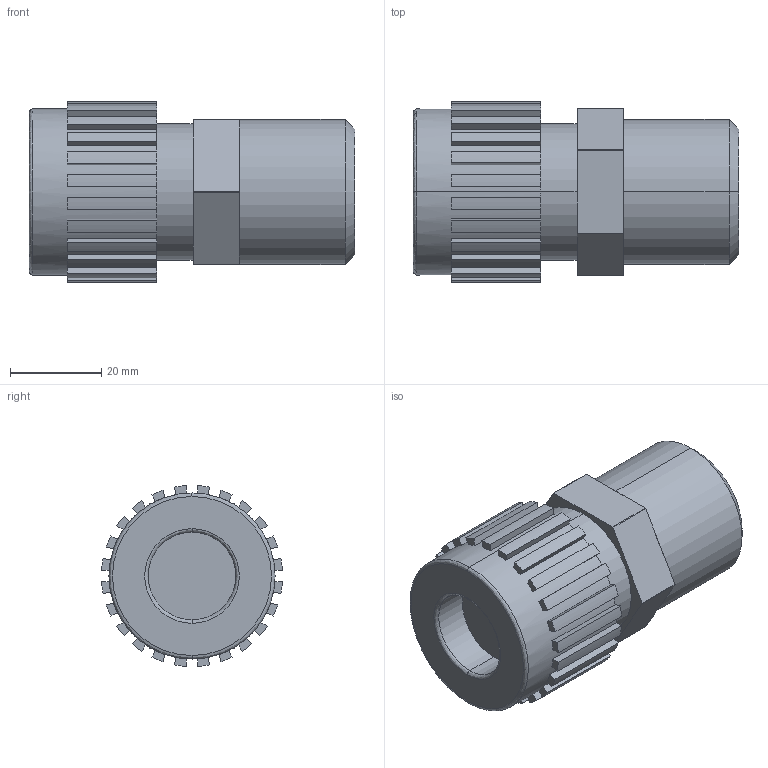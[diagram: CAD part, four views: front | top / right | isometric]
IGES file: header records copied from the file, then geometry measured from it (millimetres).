
Start section: SolidWorks IGES file using analytic representation for surfaces
Global section: file name: S:\Product Visuals\Defeatured Models and Parts Library\Parts Library IGES & STEP\Liquid Fittings\Front Mount liquid Fittings\Pillar S-300\60LPM\Fitting Pillar S-300 12.IGS; native system: SolidWorks 2012; preprocessor: SolidWorks 2012; author: rachel.dressel; date: 120926.111655; units: inch
Bounding box: 71.26 x 39.54 x 39.54 mm (x, y, z)
Volume: 62633 mm3; surface area: 12237.3 mm2
Topology: 1 solids, 1 shells, 133 faces, 370 edges, 242 vertices
Faces by surface type: plane 89, revolution 44
